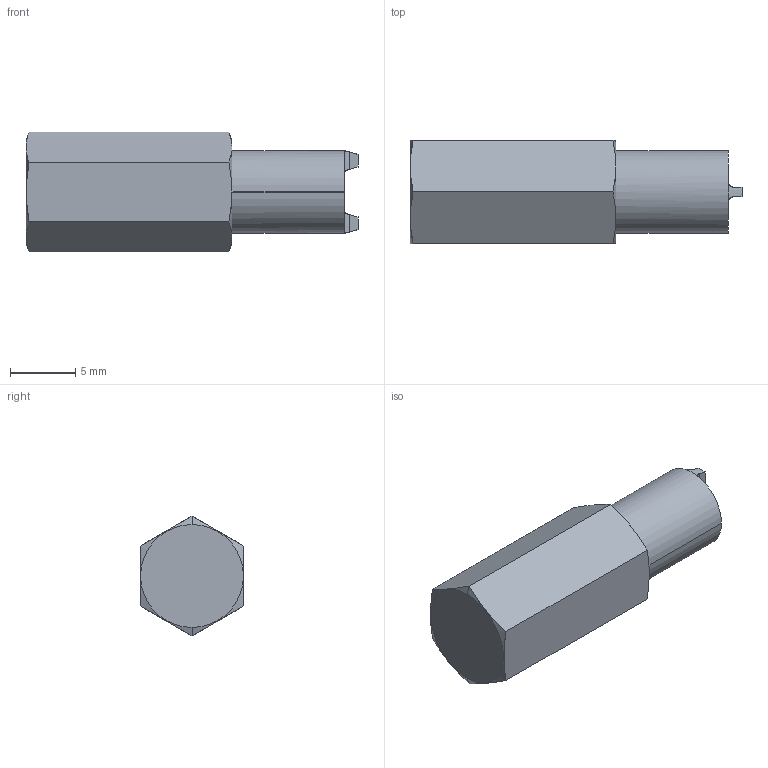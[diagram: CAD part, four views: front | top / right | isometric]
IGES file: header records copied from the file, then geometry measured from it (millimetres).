
Start section:  PTC IGES file: vw-54.igs
Global section: file name: vw-54.igs; native system: Pro/ENGINEER by Parametric Technology Corporation; preprocessor: 2002350; author: chant; organization: Unknown; date: 070702.164046; units: inch
Bounding box: 25.4 x 7.94 x 9.17 mm (x, y, z)
Surface area: 768.5 mm2 (no closed solid volume)
Topology: 0 solids, 0 shells, 39 faces, 269 edges, 351 vertices
Faces by surface type: revolution 23, bspline 16
